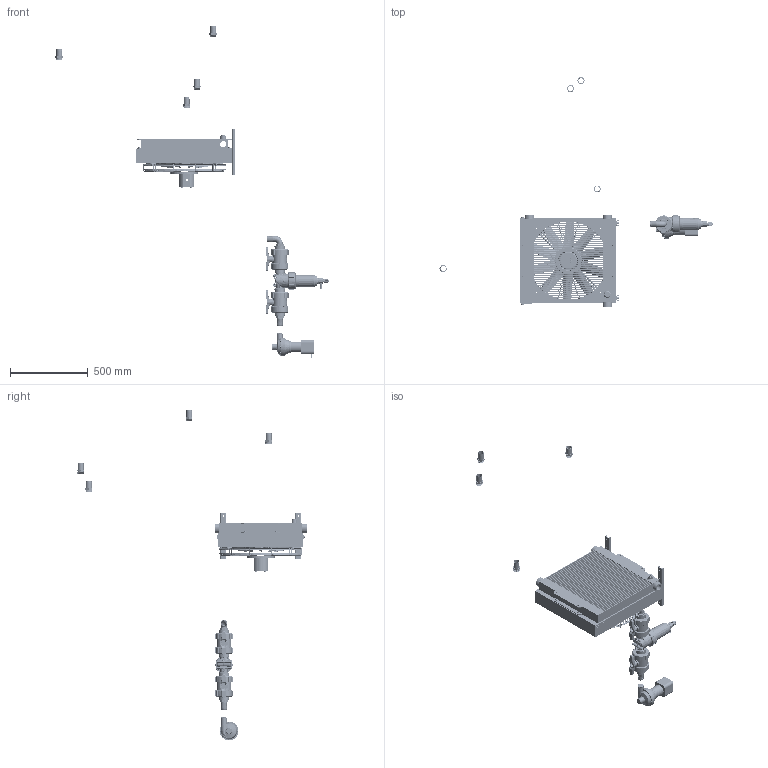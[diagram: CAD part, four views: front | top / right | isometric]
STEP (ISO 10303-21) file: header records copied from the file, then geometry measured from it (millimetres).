
FILE_DESCRIPTION(/* description */ (''),/* implementation_level */ '2;1');
FILE_NAME(/* name */ '1638079.stp',/* time_stamp */ '2025-04-23T13:37:54+02:00',/* author */ ('JJ'),/* organization */ (''),/* preprocessor_version */ 'ST-DEVELOPER v20',/* originating_system */ 'Autodesk Inventor 2025',/* authorisation */ '');
FILE_SCHEMA (('AUTOMOTIVE_DESIGN { 1 0 10303 214 3 1 1 }'));
Products named in the file (10): 1638079; 962000075; 962000067; 944600346; 944600344; 944600345; 944600347; 944600348; 944600349; 925000888
Assembly tree (19 placements, depth 2):
  1638079
    962000075
    962000067
    944600346  x2
    944600344
    944600345
    944600347  x4
    944600348
    944600349  x4
    925000888  x4
Bounding box: 1758.6 x 1476.07 x 2136.46 mm (x, y, z)
Volume: 5556036.4 mm3; surface area: 5486103.1 mm2
Topology: 50 solids, 114 shells, 4046 faces, 11242 edges, 7490 vertices
Faces by surface type: plane 1722, cylinder 977, bspline 619, cone 383, torus 309, sphere 36
Full cylindrical faces by diameter (mm): 1.28 x2, 3 x1, 3.1 x1, 4.8 x16, 5.5 x1, 6 x16, 6.5 x2, 6.647 x2, 6.8 x12, 7 x24, 8 x24, 8.5 x2, 9 x6, 9.5 x1, 10 x2, 10.8 x1, 11.3 x2, 11.445 x2, 11.5 x1, 12 x7, 13 x20, 13.5 x4, 14 x1, 15 x1, 18 x4, 18.1 x4, 18.5 x1, 18.63 x1, 18.631 x2, 19 x2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
Entity records: 162192 total; most frequent: CARTESIAN_POINT 86505, ORIENTED_EDGE 15487, DIRECTION 13982, EDGE_CURVE 8215, VERTEX_POINT 5568, AXIS2_PLACEMENT_3D 5154, EDGE_LOOP 3952, LINE 3674
